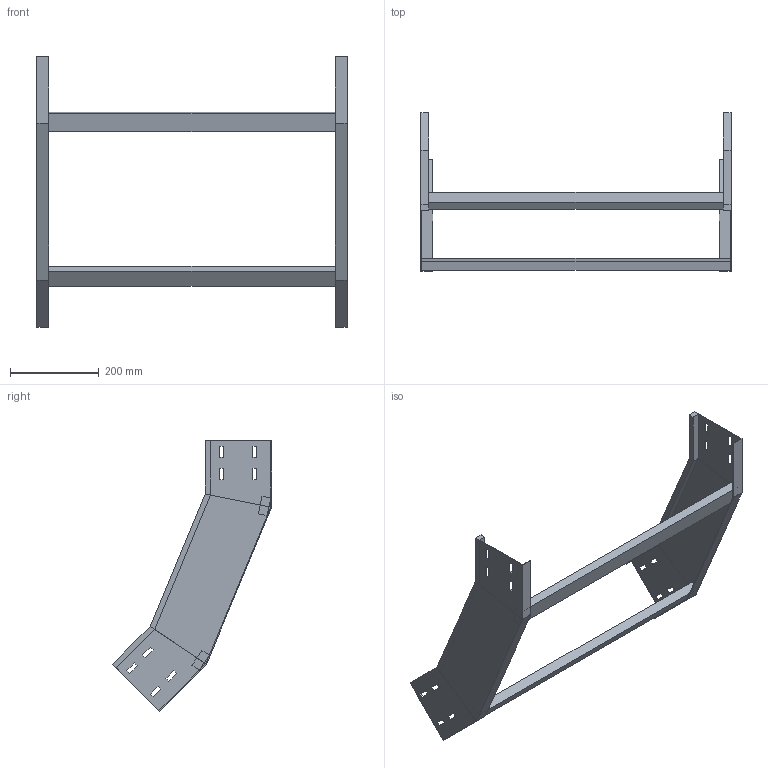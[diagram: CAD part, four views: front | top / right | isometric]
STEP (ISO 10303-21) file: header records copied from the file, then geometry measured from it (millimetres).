
FILE_DESCRIPTION (( 'STEP AP214' ), '1' );
FILE_NAME ('31J5F700.step', '2025-02-21T16:26:30', ( '' ), ( '' ), 'SwSTEP 2.0', 'SolidWorks 2023', '' );
FILE_SCHEMA (( 'AUTOMOTIVE_DESIGN' ));
Length unit declared in the file: millimetre
Products named in the file (3): 31J5F700; LONGH.SALITA_45°_H150_R500; TRAVERSINO_700
Assembly tree (4 placements, depth 2):
  31J5F700
    LONGH.SALITA_45°_H150_R500  x2
    TRAVERSINO_700  x2
Bounding box: 700 x 358.7 x 609.91 mm (x, y, z)
Volume: 1780812 mm3; surface area: 652398.1 mm2
Topology: 4 solids, 4 shells, 128 faces, 328 edges, 208 vertices
Faces by surface type: plane 128
Entity records: 2016 total; most frequent: CARTESIAN_POINT 339, ORIENTED_EDGE 328, DIRECTION 306, LINE 164, VECTOR 164, EDGE_CURVE 164, VERTEX_POINT 104, EDGE_LOOP 80
